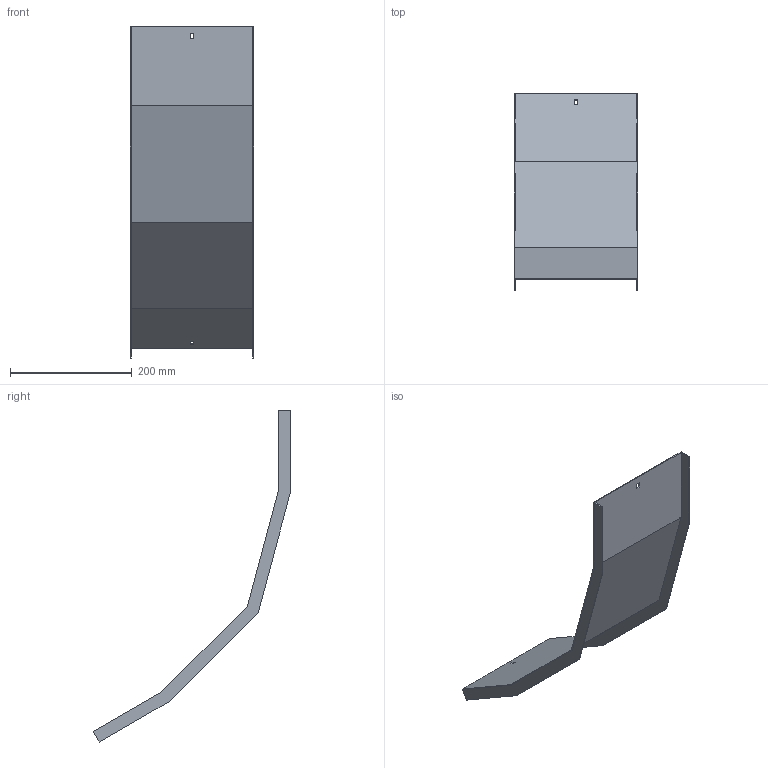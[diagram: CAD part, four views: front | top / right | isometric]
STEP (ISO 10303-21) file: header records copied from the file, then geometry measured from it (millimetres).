
FILE_DESCRIPTION (( 'STEP AP214' ), '1' );
FILE_NAME ('40N5R200_H150.step', '2025-02-21T14:29:01', ( '' ), ( '' ), 'SwSTEP 2.0', 'SolidWorks 2023', '' );
FILE_SCHEMA (( 'AUTOMOTIVE_DESIGN' ));
Length unit declared in the file: millimetre
Products named in the file (1): 40N5R200_H150
Bounding box: 203 x 324.8 x 545.25 mm (x, y, z)
Volume: 237581.1 mm3; surface area: 319623.1 mm2
Topology: 1 solids, 1 shells, 30 faces, 84 edges, 56 vertices
Faces by surface type: plane 30
Entity records: 979 total; most frequent: CARTESIAN_POINT 171, ORIENTED_EDGE 168, DIRECTION 146, VECTOR 84, EDGE_CURVE 84, LINE 84, VERTEX_POINT 56, EDGE_LOOP 34
